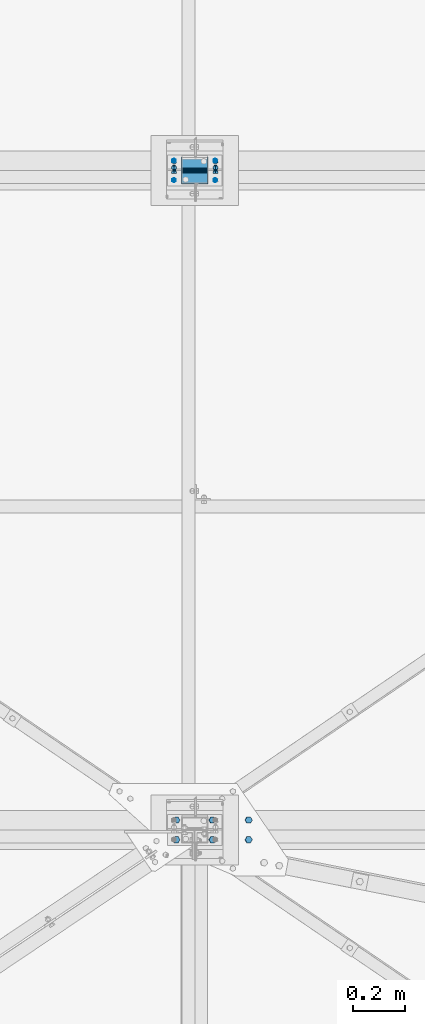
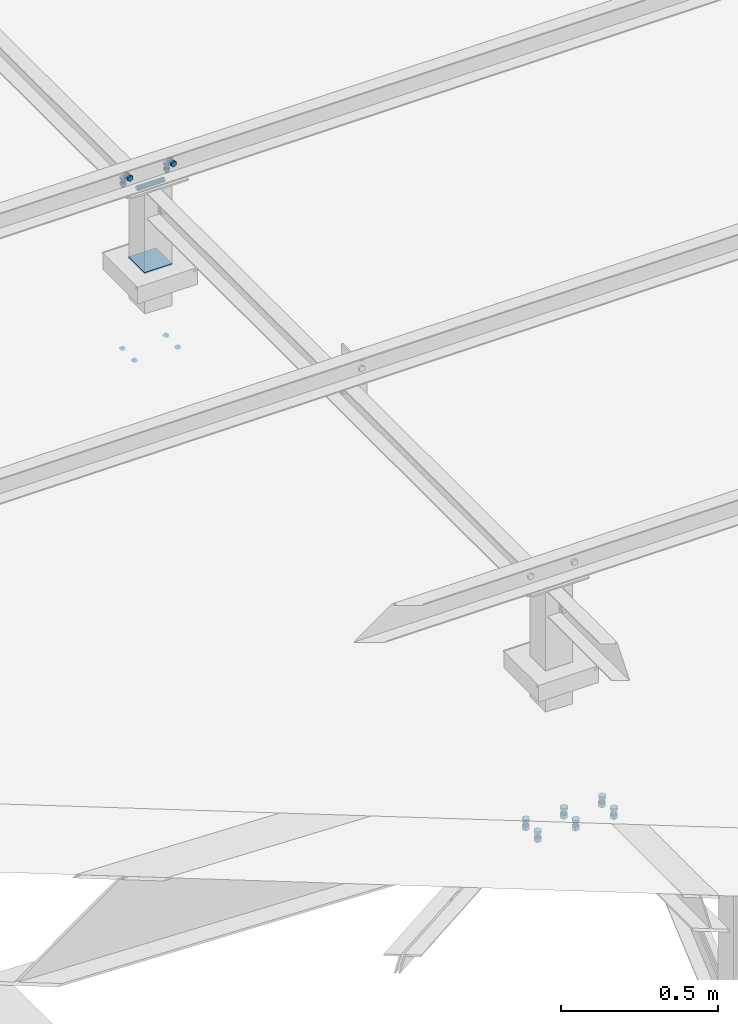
# One storey, part 318 of 3134: 6 mechanical fasteners, 4 elements without a shape of their own.
"""IFC2X3 building model written with IfcOpenShell, lengths in millimetres."""

import ifcopenshell
import ifcopenshell.guid

model = None  # the IFC model being written
_history = None  # IfcOwnerHistory: only IFC2X3 demands one
_inside = {}  # id of a spatial element -> (the spatial element, [elements in it])
_under = {}  # id of a project, library or spatial element -> (it, [spatial elements below it])
_declared = {}  # id of a project -> (the project, [libraries it declares])
_typed = {}  # id of a type object -> (the type object, [elements of that type])
_made_of = {}  # id of a material, layer set ... -> (it, [elements and type objects made of it])


def new_model(schema):
    """Start an empty IFC model of exactly this schema.

    Asked for "IFC4X3", IfcOpenShell would pick the latest addendum, in which some entities
    have other attributes; the version numbers below select the first issue.
    IFC2X3 requires an IfcOwnerHistory on every rooted entity: one is made here for all.
    """
    global model, _history
    if schema == "IFC4X3":
        model = ifcopenshell.file(schema_version=(4, 3, 0, 0))
    else:
        model = ifcopenshell.file(schema=schema)
    _inside.clear()
    _under.clear()
    _declared.clear()
    _typed.clear()
    _made_of.clear()
    _history = None
    if model.schema == "IFC2X3":
        org = make("IfcOrganization", Name="unknown")
        user = make(
            "IfcPersonAndOrganization",
            ThePerson=make("IfcPerson", FamilyName="unknown"),
            TheOrganization=org,
        )
        app = make(
            "IfcApplication",
            ApplicationDeveloper=org,
            Version="unknown",
            ApplicationFullName="unknown",
            ApplicationIdentifier="unknown",
        )
        _history = make(
            "IfcOwnerHistory",
            OwningUser=user,
            OwningApplication=app,
            ChangeAction="ADDED",
            CreationDate=0,
        )
    return model


def make(cls, **values):
    """One entity of the class cls with the attributes given. An attribute that is None is left unset."""
    return model.create_entity(
        cls, **{name: value for name, value in values.items() if value is not None}
    )


def rooted(cls, **values):
    """An entity with a GlobalId (a new one), such as an element, a storey or a relation."""
    return make(cls, GlobalId=ifcopenshell.guid.new(), OwnerHistory=_history, **values)


def si_unit(unit_type, name, prefix=None):
    """IfcSIUnit, for example si_unit("LENGTHUNIT", "METRE", prefix="MILLI")."""
    return make("IfcSIUnit", UnitType=unit_type, Prefix=prefix, Name=name)


def assignment(units):
    """IfcUnitAssignment: the units of a project."""
    return None if units is None else make("IfcUnitAssignment", Units=units)


def point(xyz):
    """IfcCartesianPoint."""
    return None if xyz is None else make("IfcCartesianPoint", Coordinates=xyz)


def direction(xyz):
    """IfcDirection."""
    return None if xyz is None else make("IfcDirection", DirectionRatios=xyz)


def frame(location, z_axis=None, x_axis=None):
    """IfcAxis2Placement3D, a coordinate frame: its origin and axes. An axis left out is left unset."""
    return make(
        "IfcAxis2Placement3D",
        Location=point(location),
        Axis=direction(z_axis),
        RefDirection=direction(x_axis),
    )


def origin_with_axes():
    """The frame at (0, 0, 0) with the z axis (0, 0, 1) and the x axis (1, 0, 0) written out."""
    return frame((0.0, 0.0, 0.0), z_axis=(0.0, 0.0, 1.0), x_axis=(1.0, 0.0, 0.0))


def place(relative_to, where):
    """IfcLocalPlacement: puts the frame where relative to a parent placement (None: the world)."""
    return make(
        "IfcLocalPlacement", PlacementRelTo=relative_to, RelativePlacement=where
    )


def context(
    kind, dimensions, precision=None, world=None, true_north=None, identifier=None
):
    """IfcGeometricRepresentationContext, for example the 3D "Model" context."""
    return make(
        "IfcGeometricRepresentationContext",
        ContextIdentifier=identifier,
        ContextType=kind,
        CoordinateSpaceDimension=dimensions,
        Precision=precision,
        WorldCoordinateSystem=world,
        TrueNorth=true_north,
    )


def subcontext(parent, identifier, kind, view, scale=None):
    """IfcGeometricRepresentationSubContext, for example "Body" below "Model"."""
    return make(
        "IfcGeometricRepresentationSubContext",
        ContextIdentifier=identifier,
        ContextType=kind,
        ParentContext=parent,
        TargetScale=scale,
        TargetView=view,
    )


def project(units=None, contexts=None):
    """IfcProject with its units and contexts."""
    return rooted(
        "IfcProject",
        Name="project",
        RepresentationContexts=contexts,
        UnitsInContext=assignment(units),
    )


def spatial(cls, under=None, at=None, **own):
    """A site, building, storey or space (cls), placed at a placement, below another one or the project."""
    s = rooted(cls, ObjectPlacement=at, **own)
    if under is not None:
        _under.setdefault(under.id(), (under, []))[1].append(s)
    return s


def faces_of(points, faces, orient=None, outer=None):
    """IfcFace entities. A face is a list of loops; a loop is a list of indices into points, from 0.

    orient and outer hold one flag for each loop. By default every Orientation is true, the
    first loop of a face is its IfcFaceOuterBound and the others are IfcFaceBound.
    """
    made = []
    for i, loops in enumerate(faces):
        bounds = []
        for j, loop in enumerate(loops):
            is_outer = j == 0 if outer is None else outer[i][j]
            bounds.append(
                make(
                    "IfcFaceOuterBound" if is_outer else "IfcFaceBound",
                    Bound=make("IfcPolyLoop", Polygon=[points[k] for k in loop]),
                    Orientation=True if orient is None else orient[i][j],
                )
            )
        made.append(make("IfcFace", Bounds=bounds))
    return made


def faceted_brep(points, faces, orient=None, outer=None, voids=None):
    """IfcFacetedBrep: a solid bounded by flat faces; with voids (closed shells), ...WithVoids."""
    shared = [point(p) for p in points]
    hull = make("IfcClosedShell", CfsFaces=faces_of(shared, faces, orient, outer))
    if voids is None:
        return make("IfcFacetedBrep", Outer=hull)
    return make(
        "IfcFacetedBrepWithVoids",
        Outer=hull,
        Voids=[
            make(cls, CfsFaces=faces_of(shared, fs, o, b)) for cls, fs, o, b in voids
        ],
    )


def shape(context_of_items, identifier, shape_type, items):
    """IfcShapeRepresentation: the items that make up one representation, for example the "Body"."""
    return make(
        "IfcShapeRepresentation",
        ContextOfItems=context_of_items,
        RepresentationIdentifier=identifier,
        RepresentationType=shape_type,
        Items=items,
    )


def source(mapping_origin, context_of_items, identifier, shape_type, items):
    """IfcRepresentationMap: a shape defined once, which mapped items show again and again."""
    return make(
        "IfcRepresentationMap",
        MappingOrigin=mapping_origin,
        MappedRepresentation=shape(context_of_items, identifier, shape_type, items),
    )


def transform(
    local_origin,
    x_axis=None,
    y_axis=None,
    z_axis=None,
    scale=None,
    scale2=None,
    scale3=None,
    uniform=True,
):
    """IfcCartesianTransformationOperator3D, or its non-uniform kind. x_axis, y_axis, z_axis: its Axis1, 2, 3."""
    if uniform:
        return make(
            "IfcCartesianTransformationOperator3D",
            Axis1=direction(x_axis),
            Axis2=direction(y_axis),
            LocalOrigin=point(local_origin),
            Scale=scale,
            Axis3=direction(z_axis),
        )
    return make(
        "IfcCartesianTransformationOperator3DnonUniform",
        Axis1=direction(x_axis),
        Axis2=direction(y_axis),
        LocalOrigin=point(local_origin),
        Scale=scale,
        Axis3=direction(z_axis),
        Scale2=scale2,
        Scale3=scale3,
    )


def mapped(mapping_source, mapping_target):
    """IfcMappedItem: shows the shape of a source again, moved by a transform."""
    return make(
        "IfcMappedItem", MappingSource=mapping_source, MappingTarget=mapping_target
    )


def material(Name=None, Category=None):
    """IfcMaterial."""
    return make("IfcMaterial", Name=Name, Category=Category)


def made_of(thing, what):
    """Note that an element or type object is made of a material, layer set ...; save() writes the relation."""
    if what is not None:
        _made_of.setdefault(what.id(), (what, []))[1].append(thing)
    return thing


def type_object(cls, material=None, **own):
    """A type object (cls), such as IfcWallType, which elements share."""
    return made_of(rooted(cls, **own), material)


def element(
    cls,
    number,
    at=None,
    inside=None,
    cuts=None,
    type_object=None,
    material=None,
    context=None,
    identifier="Body",
    shape_type=None,
    held_by="IfcProductDefinitionShape",
    body=None,
    shapes=None,
    **own,
):
    """One element of the class cls, such as IfcWall. Its Tag is "e" and its number.

    at: its placement. inside: the storey or other place that contains it. cuts: it is an
    opening in that element (IfcRelVoidsElement). A single representation is given by context,
    identifier, shape_type and body (its items); several are given by shapes. held_by: the class
    of the entity that holds the representations. save() writes the other relations.
    """
    e = rooted(cls, Tag="e%d" % number, ObjectPlacement=at, **own)
    if body is not None:
        shapes = [shape(context, identifier, shape_type, body)]
    if shapes is not None:
        e.Representation = make(held_by, Representations=shapes)
    if inside is not None:
        _inside.setdefault(inside.id(), (inside, []))[1].append(e)
    if cuts is not None:
        rooted(
            "IfcRelVoidsElement", RelatingBuildingElement=cuts, RelatedOpeningElement=e
        )
    if type_object is not None:
        _typed.setdefault(type_object.id(), (type_object, []))[1].append(e)
    return made_of(e, material)


def aggregate(whole, parts):
    """IfcRelAggregates: a whole, such as a stair, and the parts it consists of."""
    return rooted("IfcRelAggregates", RelatingObject=whole, RelatedObjects=parts)


def save(model, path):
    """Write the relations noted so far, then the file.

    IfcRelAggregates (storeys below a building ...), IfcRelContainedInSpatialStructure (elements
    in a storey), IfcRelDefinesByType, IfcRelAssociatesMaterial and IfcRelDeclares: one each for
    every whole, place, type object, material and project.
    """
    for whole, parts in _under.values():
        aggregate(whole, parts)
    for where, things in _inside.values():
        rooted(
            "IfcRelContainedInSpatialStructure",
            RelatedElements=things,
            RelatingStructure=where,
        )
    for kind, things in _typed.values():
        rooted("IfcRelDefinesByType", RelatedObjects=things, RelatingType=kind)
    for what, things in _made_of.values():
        rooted("IfcRelAssociatesMaterial", RelatedObjects=things, RelatingMaterial=what)
    for by, libraries in _declared.values():
        rooted("IfcRelDeclares", RelatingContext=by, RelatedDefinitions=libraries)
    model.write(path)


model = new_model("IFC2X3")

# Units and contexts
model_context = context("Model", 3, precision=1e-05, world=origin_with_axes())
body_context = subcontext(model_context, "Body", "Model", "MODEL_VIEW")
ifc_project = project(units=[si_unit("LENGTHUNIT", "METRE", prefix="MILLI"), si_unit("AREAUNIT", "SQUARE_METRE"), si_unit("VOLUMEUNIT", "CUBIC_METRE"), si_unit("MASSUNIT", "GRAM", prefix="KILO"), si_unit("TIMEUNIT", "SECOND"), si_unit("PLANEANGLEUNIT", "RADIAN"), si_unit("SOLIDANGLEUNIT", "STERADIAN"), si_unit("THERMODYNAMICTEMPERATUREUNIT", "DEGREE_CELSIUS"), si_unit("LUMINOUSINTENSITYUNIT", "LUMEN")], contexts=[model_context])

# Site, building, storey
site_placement = place(None, origin_with_axes())
site = spatial("IfcSite", under=ifc_project, at=site_placement, CompositionType="ELEMENT")
building_placement = place(site_placement, origin_with_axes())
building = spatial("IfcBuilding", under=site, at=building_placement, Name="Undefined", CompositionType="ELEMENT")
storey_placement = place(building_placement, origin_with_axes())
storey = spatial("IfcBuildingStorey", under=building, at=storey_placement, Name="Undefined", CompositionType="ELEMENT", Elevation=0.0)

# Assembly, mechanical fastener
assembly_1_placement = place(storey_placement, origin_with_axes())
assembly_1 = element("IfcElementAssembly", 1, at=assembly_1_placement, inside=storey, Name="300", AssemblyPlace="NOTDEFINED", PredefinedType="RIGID_FRAME")
ifc_material_1 = material(Name="8.8")
mechanical_fastener_type = type_object("IfcMechanicalFastenerType", Name="Bolt assembly")
shared_shape_1 = source(origin_with_axes(), body_context, "Body", "Brep", [
    faceted_brep([(13.856406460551, -23.1999997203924, 0.0), (6.92820323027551, -23.1999997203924, 12.0), (-6.92820323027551, -23.1999997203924, 12.0), (-13.856406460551, -23.1999997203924, 1.69692038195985e-15), (-6.92820323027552, -23.1999997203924, -12.0), (6.9282032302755, -23.1999997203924, -12.0), (6.9282032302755, -13.1999997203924, -12.0), (-6.92820323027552, -13.1999997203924, -12.0), (-13.856406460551, -13.1999997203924, 1.69692038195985e-15), (-6.92820323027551, -13.1999997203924, 12.0), (6.92820323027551, -13.1999997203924, 12.0), (13.856406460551, -13.1999997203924, 0.0), (8.0, -13.1999997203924, 0.0), (6.92820323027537, -13.1999997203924, 4.00000000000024), (3.99999999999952, -13.1999997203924, 6.92820323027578), (-8.29068785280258e-13, -13.1999997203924, 8.0), (-4.00000000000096, -13.1999997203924, 6.92820323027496), (-6.9282032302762, -13.1999997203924, 3.99999999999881), (-8.0, -13.1999997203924, -1.65813757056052e-12), (-6.92820323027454, -13.1999997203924, -4.00000000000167), (-3.99999999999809, -13.1999997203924, -6.92820323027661), (2.47832457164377e-12, -13.1999997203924, -8.0), (4.00000000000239, -13.1999997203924, -6.92820323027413), (6.92820323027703, -13.1999997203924, -3.99999999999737), (6.92820323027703, 21.8000002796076, -3.99999999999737), (4.00000000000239, 21.8000002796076, -6.92820323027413), (2.47832457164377e-12, 21.8000002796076, -8.0), (-3.99999999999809, 21.8000002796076, -6.92820323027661), (-6.92820323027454, 21.8000002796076, -4.00000000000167), (-8.0, 21.8000002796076, -1.65813757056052e-12), (-6.9282032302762, 21.8000002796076, 3.99999999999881), (-4.00000000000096, 21.8000002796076, 6.92820323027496), (-8.29068785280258e-13, 21.8000002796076, 8.0), (3.99999999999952, 21.8000002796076, 6.92820323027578), (6.92820323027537, 21.8000002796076, 4.00000000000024), (8.0, 21.8000002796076, 0.0), (13.856406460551, 3.99999999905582, 0.0), (6.92820323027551, 3.99999999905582, 12.0), (-6.92820323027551, 3.99999999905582, 12.0), (-13.856406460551, 3.99999999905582, 1.69692038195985e-15), (-6.92820323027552, 3.99999999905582, -12.0), (6.9282032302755, 3.99999999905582, -12.0), (6.9282032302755, 16.9999999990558, -12.0), (-6.92820323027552, 16.9999999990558, -12.0), (-13.856406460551, 16.9999999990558, 1.69692038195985e-15), (-6.92820323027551, 16.9999999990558, 12.0), (6.92820323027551, 16.9999999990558, 12.0), (13.856406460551, 16.9999999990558, 0.0)], [[[0, 1, 2, 3, 4, 5]], [[6, 7, 8, 9, 10, 11]], [[0, 11, 10, 1]], [[1, 10, 9, 2]], [[2, 9, 8, 3]], [[3, 8, 7, 4]], [[4, 7, 6, 5]], [[5, 6, 11, 0]], [[12, 13, 14, 15, 16, 17, 18, 19, 20, 21, 22, 23]], [[24, 25, 26, 27, 28, 29, 30, 31, 32, 33, 34, 35]], [[12, 35, 34, 13]], [[13, 34, 33, 14]], [[14, 33, 32, 15]], [[15, 32, 31, 16]], [[16, 31, 30, 17]], [[17, 30, 29, 18]], [[18, 29, 28, 19]], [[19, 28, 27, 20]], [[20, 27, 26, 21]], [[21, 26, 25, 22]], [[22, 25, 24, 23]], [[23, 24, 35, 12]], [[36, 37, 38, 39, 40, 41]], [[42, 43, 44, 45, 46, 47]], [[36, 47, 46, 37]], [[37, 46, 45, 38]], [[38, 45, 44, 39]], [[39, 44, 43, 40]], [[40, 43, 42, 41]], [[41, 42, 47, 36]]]),
    faceted_brep([(9.0, -4.10000000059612, 0.0), (7.79422863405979, -4.10000000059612, 4.50000000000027), (4.49999999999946, -4.10000000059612, 7.79422863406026), (-9.3270238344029e-13, -4.10000000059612, 9.0), (-4.50000000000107, -4.10000000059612, 7.79422863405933), (-7.79422863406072, -4.10000000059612, 4.49999999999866), (-9.0, -4.10000000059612, -1.86540476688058e-12), (-7.79422863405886, -4.10000000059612, -4.50000000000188), (-4.49999999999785, -4.10000000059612, -7.79422863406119), (2.78811514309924e-12, -4.10000000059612, -9.0), (4.50000000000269, -4.10000000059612, -7.7942286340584), (7.79422863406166, -4.10000000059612, -4.49999999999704), (7.79422863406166, 4.00000375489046, -4.49999999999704), (4.50000000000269, 4.00000375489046, -7.7942286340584), (2.78811514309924e-12, 4.00000375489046, -9.0), (-4.49999999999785, 4.00000375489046, -7.79422863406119), (-7.79422863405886, 4.00000375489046, -4.50000000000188), (-9.0, 4.00000375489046, -1.86540476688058e-12), (-7.79422863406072, 4.00000375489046, 4.49999999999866), (-4.50000000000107, 4.00000375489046, 7.79422863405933), (-9.3270238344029e-13, 4.00000375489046, 9.0), (4.49999999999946, 4.00000375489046, 7.79422863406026), (7.79422863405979, 4.00000375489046, 4.50000000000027), (9.0, 4.00000375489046, 0.0), (9.0, -13.0999997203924, 0.0), (7.79422863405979, -13.0999997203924, 4.50000000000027), (4.49999999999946, -13.0999997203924, 7.79422863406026), (-9.3270238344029e-13, -13.0999997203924, 9.0), (-4.50000000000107, -13.0999997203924, 7.79422863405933), (-7.79422863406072, -13.0999997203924, 4.49999999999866), (-9.0, -13.0999997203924, -1.86540476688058e-12), (-7.79422863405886, -13.0999997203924, -4.50000000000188), (-4.49999999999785, -13.0999997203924, -7.79422863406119), (2.78811514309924e-12, -13.0999997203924, -9.0), (4.50000000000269, -13.0999997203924, -7.7942286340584), (7.79422863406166, -13.0999997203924, -4.49999999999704), (7.79422863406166, -3.9, -4.49999999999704), (4.50000000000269, -3.9, -7.7942286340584), (2.78811514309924e-12, -3.9, -9.0), (-4.49999999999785, -3.9, -7.79422863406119), (-7.79422863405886, -3.9, -4.50000000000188), (-9.0, -3.9, -1.86540476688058e-12), (-7.79422863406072, -3.9, 4.49999999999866), (-4.50000000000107, -3.9, 7.79422863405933), (-9.3270238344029e-13, -3.9, 9.0), (4.49999999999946, -3.9, 7.79422863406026), (7.79422863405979, -3.9, 4.50000000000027), (9.0, -3.9, 0.0)], [[[0, 1, 2, 3, 4, 5, 6, 7, 8, 9, 10, 11]], [[12, 13, 14, 15, 16, 17, 18, 19, 20, 21, 22, 23]], [[0, 23, 22, 1]], [[1, 22, 21, 2]], [[2, 21, 20, 3]], [[3, 20, 19, 4]], [[4, 19, 18, 5]], [[5, 18, 17, 6]], [[6, 17, 16, 7]], [[7, 16, 15, 8]], [[8, 15, 14, 9]], [[9, 14, 13, 10]], [[10, 13, 12, 11]], [[11, 12, 23, 0]], [[24, 25, 26, 27, 28, 29, 30, 31, 32, 33, 34, 35]], [[36, 37, 38, 39, 40, 41, 42, 43, 44, 45, 46, 47]], [[24, 47, 46, 25]], [[25, 46, 45, 26]], [[26, 45, 44, 27]], [[27, 44, 43, 28]], [[28, 43, 42, 29]], [[29, 42, 41, 30]], [[30, 41, 40, 31]], [[31, 40, 39, 32]], [[32, 39, 38, 33]], [[33, 38, 37, 34]], [[34, 37, 36, 35]], [[35, 36, 47, 24]]]),
])
mechanical_fastener_1_placement = place(assembly_1_placement, frame((75758.1329862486, 2550.00999994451, 4884.40339504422), z_axis=(0.0, -1.0, 0.0), x_axis=(-0.999519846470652, 0.0, 0.0309851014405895)))
mechanical_fastener_1 = element("IfcMechanicalFastener", 2, at=mechanical_fastener_1_placement, type_object=mechanical_fastener_type, material=ifc_material_1, Name="Bolt assembly", NominalDiameter=16.0, NominalLength=35.0, context=body_context, shape_type="MappedRepresentation", body=[
    mapped(shared_shape_1, transform((0.0, 0.0, 38.0))),
    mapped(shared_shape_1, transform((140.000000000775, 5.85714587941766e-10, 38.0))),
    mapped(shared_shape_1, transform((279.999999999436, -4.74756234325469e-10, 38.0))),
    mapped(shared_shape_1, transform((0.0, 0.0, -38.0))),
    mapped(shared_shape_1, transform((140.000000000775, 5.85714587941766e-10, -38.0))),
    mapped(shared_shape_1, transform((279.999999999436, -4.74756234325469e-10, -38.0))),
])
aggregate(assembly_1, [mechanical_fastener_1])

assembly_2_placement = place(storey_placement, origin_with_axes())
assembly_2 = element("IfcElementAssembly", 3, at=assembly_2_placement, inside=storey, AssemblyPlace="NOTDEFINED", PredefinedType="RIGID_FRAME")
shared_shape_2 = source(origin_with_axes(), body_context, "Body", "Brep", [
    faceted_brep([(10.9696551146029, -14.0, 0.0), (5.48482755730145, -14.0, 9.5), (-5.48482755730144, -14.0, 9.5), (-10.9696551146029, -14.0, 1.34339530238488e-15), (-5.48482755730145, -14.0, -9.5), (5.48482755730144, -14.0, -9.50000000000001), (5.48482755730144, -6.0, -9.50000000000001), (-5.48482755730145, -6.0, -9.5), (-10.9696551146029, -6.0, 1.34339530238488e-15), (-5.48482755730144, -6.0, 9.5), (5.48482755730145, -6.0, 9.5), (10.9696551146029, -6.0, 0.0), (6.0, -6.0, 0.0), (5.19615242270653, -6.0, 3.00000000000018), (2.99999999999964, -6.0, 5.19615242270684), (-6.21801588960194e-13, -6.0, 6.0), (-3.00000000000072, -6.0, 5.19615242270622), (-5.19615242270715, -6.0, 2.9999999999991), (-6.0, -6.0, -1.24360317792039e-12), (-5.19615242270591, -6.0, -3.00000000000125), (-2.99999999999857, -6.0, -5.19615242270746), (1.85874342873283e-12, -6.0, -6.0), (3.00000000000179, -6.0, -5.1961524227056), (5.19615242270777, -6.0, -2.99999999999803), (5.19615242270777, 24.0, -2.99999999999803), (3.00000000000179, 24.0, -5.1961524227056), (1.85874342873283e-12, 24.0, -6.0), (-2.99999999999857, 24.0, -5.19615242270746), (-5.19615242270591, 24.0, -3.00000000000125), (-6.0, 24.0, -1.24360317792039e-12), (-5.19615242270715, 24.0, 2.9999999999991), (-3.00000000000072, 24.0, 5.19615242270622), (-6.21801588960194e-13, 24.0, 6.0), (2.99999999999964, 24.0, 5.19615242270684), (5.19615242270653, 24.0, 3.00000000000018), (6.0, 24.0, 0.0), (10.9696551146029, 6.00000000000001, 0.0), (5.48482755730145, 6.00000000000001, 9.5), (-5.48482755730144, 6.00000000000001, 9.5), (-10.9696551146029, 6.00000000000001, 1.34339530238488e-15), (-5.48482755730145, 6.00000000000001, -9.5), (5.48482755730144, 6.00000000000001, -9.50000000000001), (5.48482755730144, 16.0, -9.50000000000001), (-5.48482755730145, 16.0, -9.5), (-10.9696551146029, 16.0, 1.34339530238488e-15), (-5.48482755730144, 16.0, 9.5), (5.48482755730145, 16.0, 9.5), (10.9696551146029, 16.0, 0.0)], [[[0, 1, 2, 3, 4, 5]], [[6, 7, 8, 9, 10, 11]], [[0, 11, 10, 1]], [[1, 10, 9, 2]], [[2, 9, 8, 3]], [[3, 8, 7, 4]], [[4, 7, 6, 5]], [[5, 6, 11, 0]], [[12, 13, 14, 15, 16, 17, 18, 19, 20, 21, 22, 23]], [[24, 25, 26, 27, 28, 29, 30, 31, 32, 33, 34, 35]], [[12, 35, 34, 13]], [[13, 34, 33, 14]], [[14, 33, 32, 15]], [[15, 32, 31, 16]], [[16, 31, 30, 17]], [[17, 30, 29, 18]], [[18, 29, 28, 19]], [[19, 28, 27, 20]], [[20, 27, 26, 21]], [[21, 26, 25, 22]], [[22, 25, 24, 23]], [[23, 24, 35, 12]], [[36, 37, 38, 39, 40, 41]], [[42, 43, 44, 45, 46, 47]], [[36, 47, 46, 37]], [[37, 46, 45, 38]], [[38, 45, 44, 39]], [[39, 44, 43, 40]], [[40, 43, 42, 41]], [[41, 42, 47, 36]]]),
    faceted_brep([(7.0, -0.1, 0.0), (6.06217782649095, -0.1, 3.50000000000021), (3.49999999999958, -0.1, 6.06217782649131), (-7.25435187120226e-13, -0.1, 7.0), (-3.50000000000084, -0.1, 6.06217782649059), (-6.06217782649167, -0.1, 3.49999999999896), (-7.0, -0.1, -1.45087037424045e-12), (-6.06217782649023, -0.1, -3.50000000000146), (-3.49999999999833, -0.1, -6.06217782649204), (2.1685340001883e-12, -0.1, -7.0), (3.50000000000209, -0.1, -6.06217782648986), (6.0621778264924, -0.1, -3.4999999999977), (6.0621778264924, 6.00000000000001, -3.4999999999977), (3.50000000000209, 6.00000000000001, -6.06217782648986), (2.1685340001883e-12, 6.00000000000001, -7.0), (-3.49999999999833, 6.00000000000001, -6.06217782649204), (-6.06217782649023, 6.00000000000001, -3.50000000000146), (-7.0, 6.00000000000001, -1.45087037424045e-12), (-6.06217782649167, 6.00000000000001, 3.49999999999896), (-3.50000000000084, 6.00000000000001, 6.06217782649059), (-7.25435187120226e-13, 6.00000000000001, 7.0), (3.49999999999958, 6.00000000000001, 6.06217782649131), (6.06217782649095, 6.00000000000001, 3.50000000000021), (7.0, 6.00000000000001, 0.0), (7.0, -5.9, 0.0), (6.06217782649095, -5.9, 3.50000000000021), (3.49999999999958, -5.9, 6.06217782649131), (-7.25435187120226e-13, -5.9, 7.0), (-3.50000000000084, -5.9, 6.06217782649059), (-6.06217782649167, -5.9, 3.49999999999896), (-7.0, -5.9, -1.45087037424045e-12), (-6.06217782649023, -5.9, -3.50000000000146), (-3.49999999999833, -5.9, -6.06217782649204), (2.1685340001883e-12, -5.9, -7.0), (3.50000000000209, -5.9, -6.06217782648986), (6.0621778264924, -5.9, -3.4999999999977), (6.0621778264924, 0.0999999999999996, -3.4999999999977), (3.50000000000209, 0.0999999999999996, -6.06217782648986), (2.1685340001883e-12, 0.0999999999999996, -7.0), (-3.49999999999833, 0.0999999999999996, -6.06217782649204), (-6.06217782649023, 0.0999999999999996, -3.50000000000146), (-7.0, 0.0999999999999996, -1.45087037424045e-12), (-6.06217782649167, 0.0999999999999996, 3.49999999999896), (-3.50000000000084, 0.0999999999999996, 6.06217782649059), (-7.25435187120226e-13, 0.0999999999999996, 7.0), (3.49999999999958, 0.0999999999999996, 6.06217782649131), (6.06217782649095, 0.0999999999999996, 3.50000000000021), (7.0, 0.0999999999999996, 0.0)], [[[0, 1, 2, 3, 4, 5, 6, 7, 8, 9, 10, 11]], [[12, 13, 14, 15, 16, 17, 18, 19, 20, 21, 22, 23]], [[0, 23, 22, 1]], [[1, 22, 21, 2]], [[2, 21, 20, 3]], [[3, 20, 19, 4]], [[4, 19, 18, 5]], [[5, 18, 17, 6]], [[6, 17, 16, 7]], [[7, 16, 15, 8]], [[8, 15, 14, 9]], [[9, 14, 13, 10]], [[10, 13, 12, 11]], [[11, 12, 23, 0]], [[24, 25, 26, 27, 28, 29, 30, 31, 32, 33, 34, 35]], [[36, 37, 38, 39, 40, 41, 42, 43, 44, 45, 46, 47]], [[24, 47, 46, 25]], [[25, 46, 45, 26]], [[26, 45, 44, 27]], [[27, 44, 43, 28]], [[28, 43, 42, 29]], [[29, 42, 41, 30]], [[30, 41, 40, 31]], [[31, 40, 39, 32]], [[32, 39, 38, 33]], [[33, 38, 37, 34]], [[34, 37, 36, 35]], [[35, 36, 47, 24]]]),
])
mechanical_fastener_2_placement = place(assembly_2_placement, frame((75550.0, 5135.0, 5850.0), z_axis=(1.0, 0.0, 0.0), x_axis=(0.0, -1.0, 0.0)))
mechanical_fastener_2 = element("IfcMechanicalFastener", 4, at=mechanical_fastener_2_placement, type_object=mechanical_fastener_type, material=ifc_material_1, Name="Bolt assembly", NominalDiameter=12.0, NominalLength=30.0, context=body_context, shape_type="MappedRepresentation", body=[
    mapped(shared_shape_2, transform((0.0, -5.32963895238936e-10, -79.9999999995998))),
    mapped(shared_shape_2, transform((0.0, 5.3114490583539e-10, 79.9999999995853))),
])

assembly_3_placement = place(storey_placement, origin_with_axes())
assembly_3 = element("IfcElementAssembly", 5, at=assembly_3_placement, inside=storey, AssemblyPlace="NOTDEFINED", PredefinedType="RIGID_FRAME")
shared_shape_3 = source(origin_with_axes(), body_context, "Body", "Brep", [
    faceted_brep([(7.0, 13.0000253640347, 0.0), (6.06217782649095, 13.0000253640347, 3.50000000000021), (3.49999999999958, 13.0000253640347, 6.06217782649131), (-7.25435187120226e-13, 13.0000253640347, 7.0), (-3.50000000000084, 13.0000253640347, 6.06217782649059), (-6.06217782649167, 13.0000253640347, 3.49999999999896), (-7.0, 13.0000253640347, -1.45087037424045e-12), (-6.06217782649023, 13.0000253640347, -3.50000000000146), (-3.49999999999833, 13.0000253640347, -6.06217782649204), (2.1685340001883e-12, 13.0000253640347, -7.0), (3.50000000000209, 13.0000253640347, -6.06217782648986), (6.0621778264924, 13.0000253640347, -3.4999999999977), (6.0621778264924, 15.0999999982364, -3.4999999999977), (3.50000000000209, 15.0999999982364, -6.06217782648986), (2.1685340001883e-12, 15.0999999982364, -7.0), (-3.49999999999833, 15.0999999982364, -6.06217782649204), (-6.06217782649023, 15.0999999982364, -3.50000000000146), (-7.0, 15.0999999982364, -1.45087037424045e-12), (-6.06217782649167, 15.0999999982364, 3.49999999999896), (-3.50000000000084, 15.0999999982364, 6.06217782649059), (-7.25435187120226e-13, 15.0999999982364, 7.0), (3.49999999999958, 15.0999999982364, 6.06217782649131), (6.06217782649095, 15.0999999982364, 3.50000000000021), (7.0, 15.0999999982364, 0.0)], [[[0, 1, 2, 3, 4, 5, 6, 7, 8, 9, 10, 11]], [[12, 13, 14, 15, 16, 17, 18, 19, 20, 21, 22, 23]], [[0, 23, 22, 1]], [[1, 22, 21, 2]], [[2, 21, 20, 3]], [[3, 20, 19, 4]], [[4, 19, 18, 5]], [[5, 18, 17, 6]], [[6, 17, 16, 7]], [[7, 16, 15, 8]], [[8, 15, 14, 9]], [[9, 14, 13, 10]], [[10, 13, 12, 11]], [[11, 12, 23, 0]]]),
])
mechanical_fastener_3_placement = place(assembly_3_placement, frame((75549.3451187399, 5138.0, 5179.0072055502), z_axis=(-0.99951962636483, 0.0, 0.0309922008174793), x_axis=(0.0, -1.0, 0.0)))
mechanical_fastener_3 = element("IfcMechanicalFastener", 6, at=mechanical_fastener_3_placement, type_object=mechanical_fastener_type, material=ifc_material_1, Name="Bolt assembly", NominalDiameter=12.0, NominalLength=2.0, context=body_context, shape_type="MappedRepresentation", body=[
    mapped(shared_shape_3, transform((0.0, -5.32963895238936e-10, -79.9999999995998))),
    mapped(shared_shape_3, transform((76.0, -5.32963895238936e-10, -79.9999999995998))),
    mapped(shared_shape_3, transform((0.0, 5.3114490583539e-10, 79.9999999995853))),
    mapped(shared_shape_3, transform((76.0, 5.3114490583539e-10, 79.9999999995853))),
])
aggregate(assembly_3, [mechanical_fastener_3])

# Assembly, mechanical fasteners
assembly_4_placement = place(storey_placement, origin_with_axes())
assembly_4 = element("IfcElementAssembly", 7, at=assembly_4_placement, inside=storey, AssemblyPlace="NOTDEFINED", PredefinedType="RIGID_FRAME")
shared_shape_4 = source(origin_with_axes(), body_context, "Body", "Brep", [
    faceted_brep([(9.0, -50.0, 0.0), (7.79422863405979, -50.0, 4.50000000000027), (4.49999999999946, -50.0, 7.79422863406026), (-9.3270238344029e-13, -50.0, 9.0), (-4.50000000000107, -50.0, 7.79422863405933), (-7.79422863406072, -50.0, 4.49999999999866), (-9.0, -50.0, -1.86540476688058e-12), (-7.79422863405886, -50.0, -4.50000000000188), (-4.49999999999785, -50.0, -7.79422863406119), (2.78811514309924e-12, -50.0, -9.0), (4.50000000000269, -50.0, -7.7942286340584), (7.79422863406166, -50.0, -4.49999999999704), (7.79422863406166, 50.1, -4.49999999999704), (4.50000000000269, 50.1, -7.7942286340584), (2.78811514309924e-12, 50.1, -9.0), (-4.49999999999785, 50.1, -7.79422863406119), (-7.79422863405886, 50.1, -4.50000000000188), (-9.0, 50.1, -1.86540476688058e-12), (-7.79422863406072, 50.1, 4.49999999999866), (-4.50000000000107, 50.1, 7.79422863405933), (-9.3270238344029e-13, 50.1, 9.0), (4.49999999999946, 50.1, 7.79422863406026), (7.79422863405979, 50.1, 4.50000000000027), (9.0, 50.1, 0.0)], [[[0, 1, 2, 3, 4, 5, 6, 7, 8, 9, 10, 11]], [[12, 13, 14, 15, 16, 17, 18, 19, 20, 21, 22, 23]], [[0, 23, 22, 1]], [[1, 22, 21, 2]], [[2, 21, 20, 3]], [[3, 20, 19, 4]], [[4, 19, 18, 5]], [[5, 18, 17, 6]], [[6, 17, 16, 7]], [[7, 16, 15, 8]], [[8, 15, 14, 9]], [[9, 14, 13, 10]], [[10, 13, 12, 11]], [[11, 12, 23, 0]]]),
])
mechanical_fastener_4_placement = place(assembly_4_placement, frame((75550.0, 5100.0, 5830.0), z_axis=(0.0, 1.0, 0.0), x_axis=(0.0, 0.0, 1.0)))
mechanical_fastener_4 = element("IfcMechanicalFastener", 8, at=mechanical_fastener_4_placement, type_object=mechanical_fastener_type, material=ifc_material_1, Name="Bolt assembly", NominalDiameter=16.0, NominalLength=100.0, context=body_context, shape_type="MappedRepresentation", body=[
    mapped(shared_shape_4, transform((0.0, 0.0, 0.0))),
])
ifc_material_2 = material(Name="6.8")
shared_shape_5 = source(origin_with_axes(), body_context, "Body", "Brep", [
    faceted_brep([(51.5, 1.36424205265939e-12, 50.0), (51.3858192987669, 1.36424205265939e-12, 50.5740251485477), (51.0606601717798, 1.36424205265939e-12, 51.0606601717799), (50.5740251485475, 1.36424205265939e-12, 51.385819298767), (-50.0000000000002, 1.36424205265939e-12, 51.5), (-50.7500000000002, 1.36424205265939e-12, 51.2990381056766), (-51.2990381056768, 1.36424205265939e-12, 50.7499999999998), (-51.5, 1.36424205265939e-12, 49.9999999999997), (-51.5, 1.36424205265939e-12, -50.0000000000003), (-51.2990381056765, 1.36424205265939e-12, -50.7500000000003), (-50.7499999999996, 1.36424205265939e-12, -51.2990381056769), (-49.9999999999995, 1.36424205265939e-12, -51.5), (50.0000000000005, 1.36424205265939e-12, -51.5), (50.7500000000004, 1.36424205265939e-12, -51.2990381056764), (51.2990381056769, 1.36424205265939e-12, -50.7499999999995), (51.5, 1.36424205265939e-12, -49.9999999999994), (51.5, 5.10000000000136, -49.9999999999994), (51.2990381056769, 5.10000000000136, -50.7499999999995), (50.7500000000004, 5.10000000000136, -51.2990381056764), (50.0000000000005, 5.10000000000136, -51.5), (-49.9999999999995, 5.10000000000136, -51.5), (-50.7499999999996, 5.10000000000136, -51.2990381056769), (-51.2990381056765, 5.10000000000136, -50.7500000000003), (-51.5, 5.10000000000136, -50.0000000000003), (-51.5, 5.10000000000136, 49.9999999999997), (-51.2990381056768, 5.10000000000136, 50.7499999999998), (-50.7500000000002, 5.10000000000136, 51.2990381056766), (-50.0000000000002, 5.10000000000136, 51.5), (50.5740251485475, 5.10000000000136, 51.385819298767), (51.0606601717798, 5.10000000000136, 51.0606601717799), (51.3858192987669, 5.10000000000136, 50.5740251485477), (51.5, 5.10000000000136, 50.0)], [[[0, 1, 2, 3, 4, 5, 6, 7, 8, 9, 10, 11, 12, 13, 14, 15]], [[16, 17, 18, 19, 20, 21, 22, 23, 24, 25, 26, 27, 28, 29, 30, 31]], [[0, 31, 30, 1]], [[1, 30, 29, 2]], [[2, 29, 28, 3]], [[3, 28, 27, 4]], [[4, 27, 26, 5]], [[5, 26, 25, 6]], [[6, 25, 24, 7]], [[7, 24, 23, 8]], [[8, 23, 22, 9]], [[9, 22, 21, 10]], [[10, 21, 20, 11]], [[11, 20, 19, 12]], [[12, 19, 18, 13]], [[13, 18, 17, 14]], [[14, 17, 16, 15]], [[15, 16, 31, 0]]]),
])
mechanical_fastener_5_placement = place(assembly_4_placement, frame((75550.0, 5100.0, 5533.71), z_axis=(0.0, -1.0, 0.0), x_axis=(-1.0, 0.0, 0.0)))
mechanical_fastener_5 = element("IfcMechanicalFastener", 9, at=mechanical_fastener_5_placement, type_object=mechanical_fastener_type, material=ifc_material_2, Name="Bolt assembly", NominalDiameter=10.0, NominalLength=5.0, context=body_context, shape_type="MappedRepresentation", body=[
    mapped(shared_shape_5, transform((0.0, 0.0, 0.0))),
])
aggregate(assembly_4, [mechanical_fastener_4, mechanical_fastener_5])

# Mechanical fastener
shared_shape_6 = source(origin_with_axes(), body_context, "Body", "Brep", [
    faceted_brep([(10.9696551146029, -12.0, 0.0), (5.48482755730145, -12.0, 9.5), (-5.48482755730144, -12.0, 9.5), (-10.9696551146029, -12.0, 1.34339530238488e-15), (-5.48482755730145, -12.0, -9.5), (5.48482755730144, -12.0, -9.50000000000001), (5.48482755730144, -4.0, -9.50000000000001), (-5.48482755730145, -4.0, -9.5), (-10.9696551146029, -4.0, 1.34339530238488e-15), (-5.48482755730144, -4.0, 9.5), (5.48482755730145, -4.0, 9.5), (10.9696551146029, -4.0, 0.0), (6.0, -4.0, 0.0), (5.19615242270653, -4.0, 3.00000000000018), (2.99999999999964, -4.0, 5.19615242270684), (-6.21801588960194e-13, -4.0, 6.0), (-3.00000000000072, -4.0, 5.19615242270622), (-5.19615242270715, -4.0, 2.9999999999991), (-6.0, -4.0, -1.24360317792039e-12), (-5.19615242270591, -4.0, -3.00000000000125), (-2.99999999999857, -4.0, -5.19615242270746), (1.85874342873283e-12, -4.0, -6.0), (3.00000000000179, -4.0, -5.1961524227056), (5.19615242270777, -4.0, -2.99999999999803), (5.19615242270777, 21.0, -2.99999999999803), (3.00000000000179, 21.0, -5.1961524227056), (1.85874342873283e-12, 21.0, -6.0), (-2.99999999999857, 21.0, -5.19615242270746), (-5.19615242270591, 21.0, -3.00000000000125), (-6.0, 21.0, -1.24360317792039e-12), (-5.19615242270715, 21.0, 2.9999999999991), (-3.00000000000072, 21.0, 5.19615242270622), (-6.21801588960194e-13, 21.0, 6.0), (2.99999999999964, 21.0, 5.19615242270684), (5.19615242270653, 21.0, 3.00000000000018), (6.0, 21.0, 0.0), (10.9696551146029, 6.00000000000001, 0.0), (5.48482755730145, 6.00000000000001, 9.5), (-5.48482755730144, 6.00000000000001, 9.5), (-10.9696551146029, 6.00000000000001, 1.34339530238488e-15), (-5.48482755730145, 6.00000000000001, -9.5), (5.48482755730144, 6.00000000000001, -9.50000000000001), (5.48482755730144, 16.0, -9.50000000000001), (-5.48482755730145, 16.0, -9.5), (-10.9696551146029, 16.0, 1.34339530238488e-15), (-5.48482755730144, 16.0, 9.5), (5.48482755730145, 16.0, 9.5), (10.9696551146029, 16.0, 0.0)], [[[0, 1, 2, 3, 4, 5]], [[6, 7, 8, 9, 10, 11]], [[0, 11, 10, 1]], [[1, 10, 9, 2]], [[2, 9, 8, 3]], [[3, 8, 7, 4]], [[4, 7, 6, 5]], [[5, 6, 11, 0]], [[12, 13, 14, 15, 16, 17, 18, 19, 20, 21, 22, 23]], [[24, 25, 26, 27, 28, 29, 30, 31, 32, 33, 34, 35]], [[12, 35, 34, 13]], [[13, 34, 33, 14]], [[14, 33, 32, 15]], [[15, 32, 31, 16]], [[16, 31, 30, 17]], [[17, 30, 29, 18]], [[18, 29, 28, 19]], [[19, 28, 27, 20]], [[20, 27, 26, 21]], [[21, 26, 25, 22]], [[22, 25, 24, 23]], [[23, 24, 35, 12]], [[36, 37, 38, 39, 40, 41]], [[42, 43, 44, 45, 46, 47]], [[36, 47, 46, 37]], [[37, 46, 45, 38]], [[38, 45, 44, 39]], [[39, 44, 43, 40]], [[40, 43, 42, 41]], [[41, 42, 47, 36]]]),
    faceted_brep([(7.0, -3.9, 0.0), (6.06217782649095, -3.9, 3.50000000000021), (3.49999999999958, -3.9, 6.06217782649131), (-7.25435187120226e-13, -3.9, 7.0), (-3.50000000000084, -3.9, 6.06217782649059), (-6.06217782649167, -3.9, 3.49999999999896), (-7.0, -3.9, -1.45087037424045e-12), (-6.06217782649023, -3.9, -3.50000000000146), (-3.49999999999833, -3.9, -6.06217782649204), (2.1685340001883e-12, -3.9, -7.0), (3.50000000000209, -3.9, -6.06217782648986), (6.0621778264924, -3.9, -3.4999999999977), (6.0621778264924, 0.0999999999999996, -3.4999999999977), (3.50000000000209, 0.0999999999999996, -6.06217782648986), (2.1685340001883e-12, 0.0999999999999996, -7.0), (-3.49999999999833, 0.0999999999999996, -6.06217782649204), (-6.06217782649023, 0.0999999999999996, -3.50000000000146), (-7.0, 0.0999999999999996, -1.45087037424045e-12), (-6.06217782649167, 0.0999999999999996, 3.49999999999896), (-3.50000000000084, 0.0999999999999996, 6.06217782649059), (-7.25435187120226e-13, 0.0999999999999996, 7.0), (3.49999999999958, 0.0999999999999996, 6.06217782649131), (6.06217782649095, 0.0999999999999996, 3.50000000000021), (7.0, 0.0999999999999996, 0.0), (7.0, -0.1, 0.0), (6.06217782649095, -0.1, 3.50000000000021), (3.49999999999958, -0.1, 6.06217782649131), (-7.25435187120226e-13, -0.1, 7.0), (-3.50000000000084, -0.1, 6.06217782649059), (-6.06217782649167, -0.1, 3.49999999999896), (-7.0, -0.1, -1.45087037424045e-12), (-6.06217782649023, -0.1, -3.50000000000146), (-3.49999999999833, -0.1, -6.06217782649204), (2.1685340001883e-12, -0.1, -7.0), (3.50000000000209, -0.1, -6.06217782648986), (6.0621778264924, -0.1, -3.4999999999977), (6.0621778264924, 6.00000000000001, -3.4999999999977), (3.50000000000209, 6.00000000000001, -6.06217782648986), (2.1685340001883e-12, 6.00000000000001, -7.0), (-3.49999999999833, 6.00000000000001, -6.06217782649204), (-6.06217782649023, 6.00000000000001, -3.50000000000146), (-7.0, 6.00000000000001, -1.45087037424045e-12), (-6.06217782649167, 6.00000000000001, 3.49999999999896), (-3.50000000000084, 6.00000000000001, 6.06217782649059), (-7.25435187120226e-13, 6.00000000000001, 7.0), (3.49999999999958, 6.00000000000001, 6.06217782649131), (6.06217782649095, 6.00000000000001, 3.50000000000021), (7.0, 6.00000000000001, 0.0)], [[[0, 1, 2, 3, 4, 5, 6, 7, 8, 9, 10, 11]], [[12, 13, 14, 15, 16, 17, 18, 19, 20, 21, 22, 23]], [[0, 23, 22, 1]], [[1, 22, 21, 2]], [[2, 21, 20, 3]], [[3, 20, 19, 4]], [[4, 19, 18, 5]], [[5, 18, 17, 6]], [[6, 17, 16, 7]], [[7, 16, 15, 8]], [[8, 15, 14, 9]], [[9, 14, 13, 10]], [[10, 13, 12, 11]], [[11, 12, 23, 0]], [[24, 25, 26, 27, 28, 29, 30, 31, 32, 33, 34, 35]], [[36, 37, 38, 39, 40, 41, 42, 43, 44, 45, 46, 47]], [[24, 47, 46, 25]], [[25, 46, 45, 26]], [[26, 45, 44, 27]], [[27, 44, 43, 28]], [[28, 43, 42, 29]], [[29, 42, 41, 30]], [[30, 41, 40, 31]], [[31, 40, 39, 32]], [[32, 39, 38, 33]], [[33, 38, 37, 34]], [[34, 37, 36, 35]], [[35, 36, 47, 24]]]),
])
mechanical_fastener_6_placement = place(assembly_2_placement, frame((75550.0, 5100.0, 5885.0), z_axis=(1.0, 0.0, 0.0), x_axis=(0.0, 0.0, -1.0)))
mechanical_fastener_6 = element("IfcMechanicalFastener", 10, at=mechanical_fastener_6_placement, type_object=mechanical_fastener_type, material=ifc_material_1, Name="Bolt assembly", NominalDiameter=12.0, NominalLength=25.0, context=body_context, shape_type="MappedRepresentation", body=[
    mapped(shared_shape_6, transform((0.0, -5.32963895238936e-10, -79.9999999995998))),
    mapped(shared_shape_6, transform((0.0, 5.3114490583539e-10, 79.9999999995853))),
])

aggregate(assembly_2, [mechanical_fastener_6, mechanical_fastener_2])

save(model, "model.ifc")
